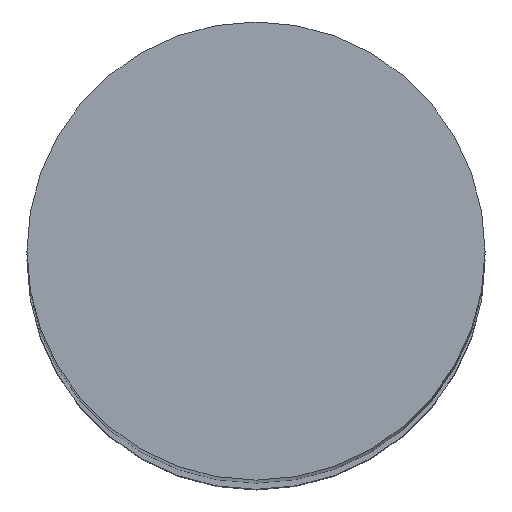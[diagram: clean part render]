
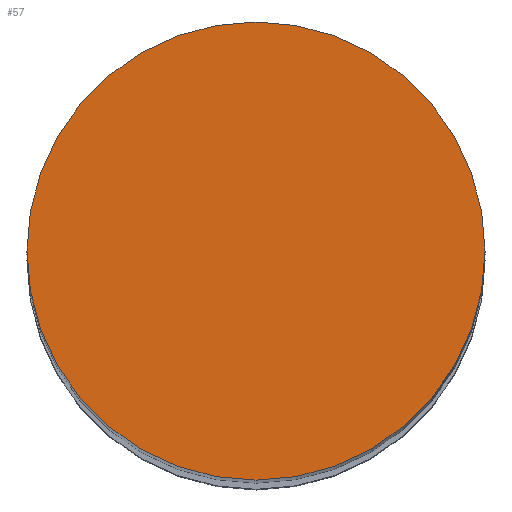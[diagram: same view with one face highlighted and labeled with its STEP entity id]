
A CAD part, top view. The second image highlights one B-rep face of the part: STEP entity #57.
In plain terms, the highlighted planar face has unit normal (0, 0, 1).
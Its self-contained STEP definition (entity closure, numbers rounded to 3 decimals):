
#57=ADVANCED_FACE('',(#110),#111,.T.);
#110=FACE_OUTER_BOUND('',#156,.T.);
#111=PLANE('',#157);
#156=EDGE_LOOP('',(#243,#244));
#157=AXIS2_PLACEMENT_3D('',#245,#246,#247);
#243=ORIENTED_EDGE('',*,*,#288,.T.);
#244=ORIENTED_EDGE('',*,*,#259,.T.);
#245=CARTESIAN_POINT('',(0.0,0.0,0.0));
#246=DIRECTION('',(0.0,0.0,1.0));
#247=DIRECTION('',(1.0,0.0,0.0));
#259=EDGE_CURVE('',#296,#293,#297,.T.);
#288=EDGE_CURVE('',#293,#296,#337,.T.);
#293=VERTEX_POINT('',#342);
#296=VERTEX_POINT('',#346);
#297=CIRCLE('',#347,6.0);
#337=CIRCLE('',#392,6.0);
#342=CARTESIAN_POINT('',(-6.0,0.0,0.0));
#346=CARTESIAN_POINT('',(6.0,0.,0.0));
#347=AXIS2_PLACEMENT_3D('',#397,#398,#399);
#392=AXIS2_PLACEMENT_3D('',#447,#448,#449);
#397=CARTESIAN_POINT('',(0.0,0.0,0.0));
#398=DIRECTION('',(0.0,0.0,1.0));
#399=DIRECTION('',(-1.0,0.0,0.0));
#447=CARTESIAN_POINT('',(0.0,0.0,0.0));
#448=DIRECTION('',(0.0,0.0,1.0));
#449=DIRECTION('',(-1.0,0.0,0.0));
